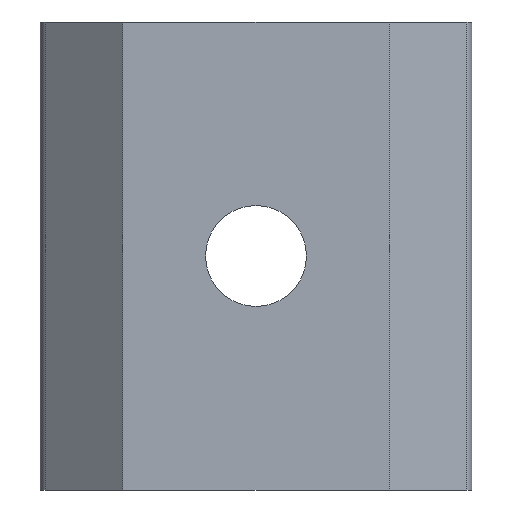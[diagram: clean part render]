
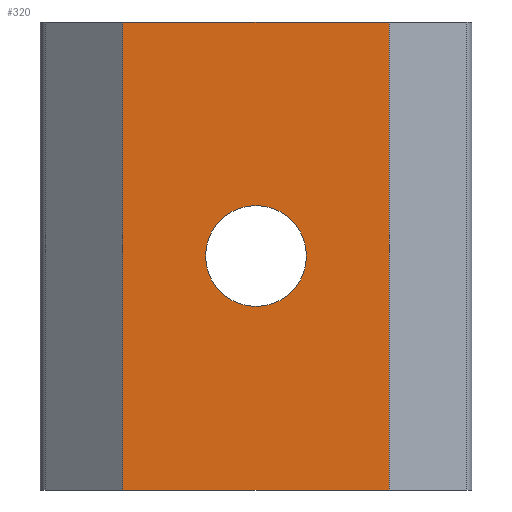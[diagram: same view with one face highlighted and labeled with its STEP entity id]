
A CAD part, front view. The second image highlights one B-rep face of the part: STEP entity #320.
In plain terms, the highlighted planar face has unit normal (0, -1, 0).
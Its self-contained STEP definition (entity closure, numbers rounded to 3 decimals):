
#11 = ORIENTED_EDGE ( 'NONE', *, *, #569, .F. ) ;
#14 = EDGE_LOOP ( 'NONE', ( #259, #11, #310, #300 ) ) ;
#72 = LINE ( 'NONE', #570, #199 ) ;
#102 = CARTESIAN_POINT ( 'NONE',  ( -2.9, -2.25, 5.1 ) ) ;
#109 = DIRECTION ( 'NONE',  ( -1., 0., 0. ) ) ;
#112 = DIRECTION ( 'NONE',  ( 0., 1., 0. ) ) ;
#150 = CIRCLE ( 'NONE', #585, 1.1 ) ;
#153 = DIRECTION ( 'NONE',  ( -1., 0., 0. ) ) ;
#158 = CARTESIAN_POINT ( 'NONE',  ( -1.1, -2.25, 0. ) ) ;
#163 = LINE ( 'NONE', #285, #623 ) ;
#165 = CARTESIAN_POINT ( 'NONE',  ( 0., -2.25, 0. ) ) ;
#167 = VECTOR ( 'NONE', #578, 1000. ) ;
#181 = CARTESIAN_POINT ( 'NONE',  ( 2.9, -2.25, 5.1 ) ) ;
#199 = VECTOR ( 'NONE', #266, 1000. ) ;
#218 = CARTESIAN_POINT ( 'NONE',  ( -2.9, -2.25, 5.1 ) ) ;
#219 = EDGE_CURVE ( 'NONE', #520, #633, #296, .T. ) ;
#228 = DIRECTION ( 'NONE',  ( 0., 0., -1. ) ) ;
#259 = ORIENTED_EDGE ( 'NONE', *, *, #342, .T. ) ;
#266 = DIRECTION ( 'NONE',  ( 1., 0., 0. ) ) ;
#285 = CARTESIAN_POINT ( 'NONE',  ( 2.9, -2.25, 5.1 ) ) ;
#296 = LINE ( 'NONE', #548, #434 ) ;
#297 = VERTEX_POINT ( 'NONE', #667 ) ;
#300 = ORIENTED_EDGE ( 'NONE', *, *, #405, .T. ) ;
#309 = CIRCLE ( 'NONE', #732, 1.1 ) ;
#310 = ORIENTED_EDGE ( 'NONE', *, *, #219, .F. ) ;
#320 = ADVANCED_FACE ( 'NONE', ( #681, #539 ), #442, .F. ) ;
#322 = LINE ( 'NONE', #102, #167 ) ;
#342 = EDGE_CURVE ( 'NONE', #297, #563, #72, .T. ) ;
#383 = CARTESIAN_POINT ( 'NONE',  ( 2.9, -2.25, 5.1 ) ) ;
#405 = EDGE_CURVE ( 'NONE', #520, #297, #322, .T. ) ;
#407 = ORIENTED_EDGE ( 'NONE', *, *, #490, .T. ) ;
#410 = VERTEX_POINT ( 'NONE', #158 ) ;
#434 = VECTOR ( 'NONE', #661, 1000. ) ;
#442 = PLANE ( 'NONE',  #649 ) ;
#456 = EDGE_LOOP ( 'NONE', ( #407, #643 ) ) ;
#460 = DIRECTION ( 'NONE',  ( 0., 1., 0. ) ) ;
#462 = CARTESIAN_POINT ( 'NONE',  ( 0., -2.25, 0. ) ) ;
#469 = CARTESIAN_POINT ( 'NONE',  ( 2.9, -2.25, -5.1 ) ) ;
#472 = CARTESIAN_POINT ( 'NONE',  ( 1.1, -2.25, 0. ) ) ;
#490 = EDGE_CURVE ( 'NONE', #410, #588, #309, .T. ) ;
#507 = DIRECTION ( 'NONE',  ( 0., 1., 0. ) ) ;
#510 = EDGE_CURVE ( 'NONE', #588, #410, #150, .T. ) ;
#520 = VERTEX_POINT ( 'NONE', #218 ) ;
#521 = DIRECTION ( 'NONE',  ( -1., 0., 0. ) ) ;
#539 = FACE_OUTER_BOUND ( 'NONE', #14, .T. ) ;
#548 = CARTESIAN_POINT ( 'NONE',  ( 2.9, -2.25, 5.1 ) ) ;
#563 = VERTEX_POINT ( 'NONE', #469 ) ;
#569 = EDGE_CURVE ( 'NONE', #633, #563, #163, .T. ) ;
#570 = CARTESIAN_POINT ( 'NONE',  ( 2.9, -2.25, -5.1 ) ) ;
#578 = DIRECTION ( 'NONE',  ( 0., 0., -1. ) ) ;
#585 = AXIS2_PLACEMENT_3D ( 'NONE', #462, #112, #521 ) ;
#588 = VERTEX_POINT ( 'NONE', #472 ) ;
#623 = VECTOR ( 'NONE', #228, 1000. ) ;
#633 = VERTEX_POINT ( 'NONE', #181 ) ;
#643 = ORIENTED_EDGE ( 'NONE', *, *, #510, .T. ) ;
#649 = AXIS2_PLACEMENT_3D ( 'NONE', #383, #507, #153 ) ;
#661 = DIRECTION ( 'NONE',  ( 1., 0., 0. ) ) ;
#667 = CARTESIAN_POINT ( 'NONE',  ( -2.9, -2.25, -5.1 ) ) ;
#681 = FACE_BOUND ( 'NONE', #456, .T. ) ;
#732 = AXIS2_PLACEMENT_3D ( 'NONE', #165, #460, #109 ) ;
